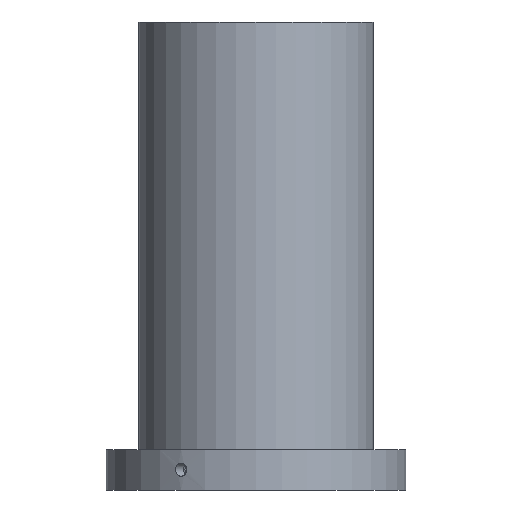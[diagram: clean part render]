
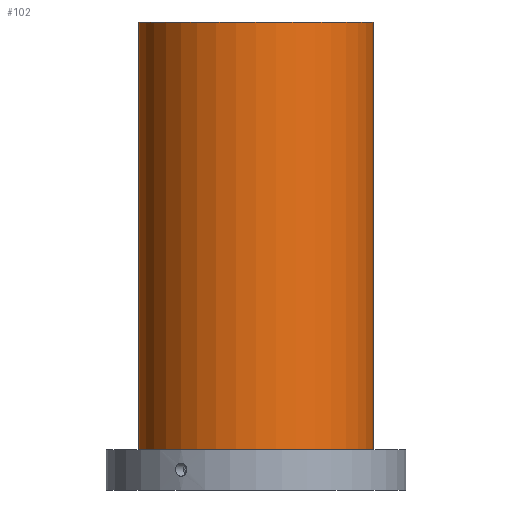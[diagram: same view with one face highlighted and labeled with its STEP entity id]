
A CAD part, front view. The second image highlights one B-rep face of the part: STEP entity #102.
In plain terms, the highlighted cylindrical face has radius 72.5 mm (diameter 145 mm), a full revolution.
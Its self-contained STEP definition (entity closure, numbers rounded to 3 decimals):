
#102=ADVANCED_FACE('',(#136,#137),#119,.T.);
#119=CYLINDRICAL_SURFACE('',#371,72.5);
#136=FACE_BOUND('',#188,.T.);
#137=FACE_BOUND('',#189,.T.);
#188=EDGE_LOOP('',(#240));
#189=EDGE_LOOP('',(#241));
#240=ORIENTED_EDGE('',*,*,#318,.F.);
#241=ORIENTED_EDGE('',*,*,#319,.T.);
#292=VERTEX_POINT('',#557);
#293=VERTEX_POINT('',#559);
#318=EDGE_CURVE('',#292,#292,#343,.T.);
#319=EDGE_CURVE('',#293,#293,#344,.T.);
#343=CIRCLE('',#369,72.5);
#344=CIRCLE('',#370,72.5);
#369=AXIS2_PLACEMENT_3D('',#556,#415,#416);
#370=AXIS2_PLACEMENT_3D('',#558,#417,#418);
#371=AXIS2_PLACEMENT_3D('',#560,#419,#420);
#415=DIRECTION('',(0.,0.,-1.));
#416=DIRECTION('',(1.,0.,0.));
#417=DIRECTION('',(0.,0.,-1.));
#418=DIRECTION('',(1.,0.,0.));
#419=DIRECTION('',(0.,0.,-1.));
#420=DIRECTION('',(-1.,0.,0.));
#556=CARTESIAN_POINT('',(0.,0.,25.));
#557=CARTESIAN_POINT('',(72.5,0.,25.));
#558=CARTESIAN_POINT('',(0.,0.,289.));
#559=CARTESIAN_POINT('',(72.5,0.,289.));
#560=CARTESIAN_POINT('',(0.,0.,289.));
